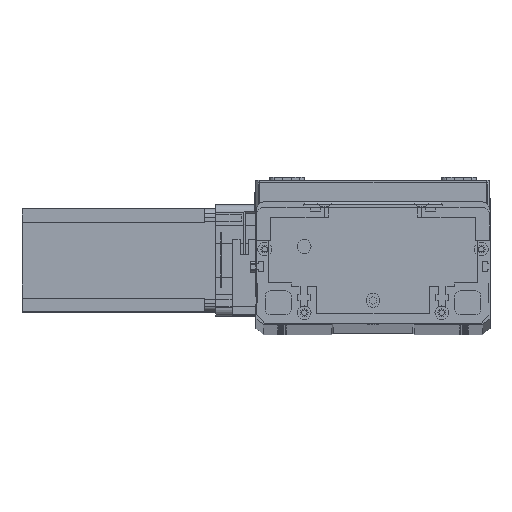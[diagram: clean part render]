
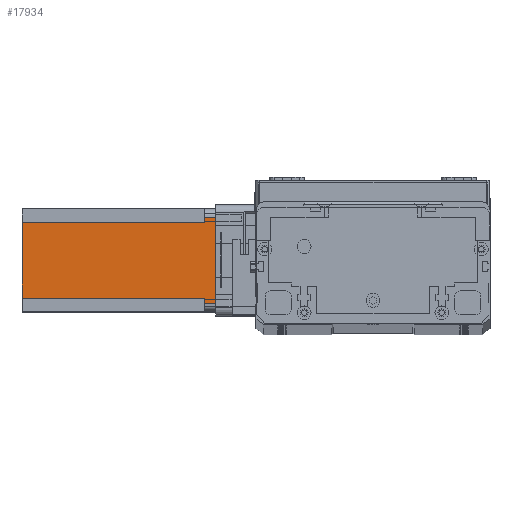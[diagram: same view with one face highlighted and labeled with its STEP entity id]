
A CAD part, top view. The second image highlights one B-rep face of the part: STEP entity #17934.
In plain terms, the highlighted planar face has unit normal (0, 0, 1) as drawn and (0, -1, 0) by its records, which use the part's own axes.
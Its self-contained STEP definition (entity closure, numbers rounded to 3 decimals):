
#14 = VERTEX_POINT ( 'NONE', #10759 ) ;
#540 = CARTESIAN_POINT ( 'NONE',  ( 0., 0., -112.5 ) ) ;
#685 = LINE ( 'NONE', #23722, #22745 ) ;
#937 = CARTESIAN_POINT ( 'NONE',  ( 0., 0., 0. ) ) ;
#1001 = PLANE ( 'NONE',  #6133 ) ;
#1212 = DIRECTION ( 'NONE',  ( 1., 0., 0. ) ) ;
#1981 = VECTOR ( 'NONE', #7027, 1000. ) ;
#2566 = VECTOR ( 'NONE', #11700, 1000. ) ;
#3206 = DIRECTION ( 'NONE',  ( 0., -1., 0. ) ) ;
#3386 = VERTEX_POINT ( 'NONE', #21681 ) ;
#3412 = CARTESIAN_POINT ( 'NONE',  ( 52., 0., -6.5 ) ) ;
#3940 = VERTEX_POINT ( 'NONE', #14972 ) ;
#4506 = VECTOR ( 'NONE', #10986, 1000. ) ;
#5635 = ORIENTED_EDGE ( 'NONE', *, *, #8963, .T. ) ;
#5998 = VERTEX_POINT ( 'NONE', #18128 ) ;
#6133 = AXIS2_PLACEMENT_3D ( 'NONE', #12074, #3206, #18588 ) ;
#6845 = VERTEX_POINT ( 'NONE', #21102 ) ;
#7027 = DIRECTION ( 'NONE',  ( 0., 0., 1. ) ) ;
#7896 = ORIENTED_EDGE ( 'NONE', *, *, #9510, .T. ) ;
#8359 = CARTESIAN_POINT ( 'NONE',  ( 5., 0., -6.5 ) ) ;
#8458 = ORIENTED_EDGE ( 'NONE', *, *, #20499, .F. ) ;
#8522 = LINE ( 'NONE', #540, #2566 ) ;
#8688 = EDGE_CURVE ( 'NONE', #21272, #21373, #685, .T. ) ;
#8723 = CARTESIAN_POINT ( 'NONE',  ( 8., 0., -112.5 ) ) ;
#8963 = EDGE_CURVE ( 'NONE', #6845, #21373, #17857, .T. ) ;
#9022 = EDGE_LOOP ( 'NONE', ( #14428, #7896, #8458, #5635, #21178, #20231, #20748, #11254 ) ) ;
#9172 = CARTESIAN_POINT ( 'NONE',  ( 55., 0., -6.5 ) ) ;
#9510 = EDGE_CURVE ( 'NONE', #15131, #3386, #13773, .T. ) ;
#9586 = CARTESIAN_POINT ( 'NONE',  ( 5., 0., -112.5 ) ) ;
#9738 = EDGE_CURVE ( 'NONE', #5998, #15131, #13431, .T. ) ;
#10759 = CARTESIAN_POINT ( 'NONE',  ( 52., 0., -112.5 ) ) ;
#10986 = DIRECTION ( 'NONE',  ( 0., 0., 1. ) ) ;
#11017 = CARTESIAN_POINT ( 'NONE',  ( 52., 0., -112.5 ) ) ;
#11254 = ORIENTED_EDGE ( 'NONE', *, *, #17421, .F. ) ;
#11449 = CARTESIAN_POINT ( 'NONE',  ( 55., 0., -112.5 ) ) ;
#11700 = DIRECTION ( 'NONE',  ( 1., 0., 0. ) ) ;
#12074 = CARTESIAN_POINT ( 'NONE',  ( 0., 0., -112.5 ) ) ;
#12458 = CARTESIAN_POINT ( 'NONE',  ( 8., 0., -6.5 ) ) ;
#13431 = LINE ( 'NONE', #3412, #24110 ) ;
#13773 = LINE ( 'NONE', #11449, #1981 ) ;
#14428 = ORIENTED_EDGE ( 'NONE', *, *, #9738, .T. ) ;
#14972 = CARTESIAN_POINT ( 'NONE',  ( 8., 0., -112.5 ) ) ;
#15003 = VECTOR ( 'NONE', #25939, 1000. ) ;
#15131 = VERTEX_POINT ( 'NONE', #9172 ) ;
#16192 = LINE ( 'NONE', #8723, #4506 ) ;
#16337 = DIRECTION ( 'NONE',  ( 1., 0., 0. ) ) ;
#16996 = EDGE_CURVE ( 'NONE', #3940, #14, #8522, .T. ) ;
#17378 = DIRECTION ( 'NONE',  ( -1., 0., 0. ) ) ;
#17421 = EDGE_CURVE ( 'NONE', #5998, #14, #22103, .T. ) ;
#17857 = LINE ( 'NONE', #9586, #27757 ) ;
#17934 = ADVANCED_FACE ( 'NONE', ( #20054 ), #1001, .T. ) ;
#18128 = CARTESIAN_POINT ( 'NONE',  ( 52., 0., -6.5 ) ) ;
#18588 = DIRECTION ( 'NONE',  ( 0., 0., -1. ) ) ;
#18877 = EDGE_CURVE ( 'NONE', #3940, #21272, #16192, .T. ) ;
#19149 = LINE ( 'NONE', #937, #24098 ) ;
#20054 = FACE_OUTER_BOUND ( 'NONE', #9022, .T. ) ;
#20231 = ORIENTED_EDGE ( 'NONE', *, *, #18877, .F. ) ;
#20499 = EDGE_CURVE ( 'NONE', #6845, #3386, #19149, .T. ) ;
#20748 = ORIENTED_EDGE ( 'NONE', *, *, #16996, .T. ) ;
#21102 = CARTESIAN_POINT ( 'NONE',  ( 5., 0., 0. ) ) ;
#21178 = ORIENTED_EDGE ( 'NONE', *, *, #8688, .F. ) ;
#21272 = VERTEX_POINT ( 'NONE', #12458 ) ;
#21373 = VERTEX_POINT ( 'NONE', #8359 ) ;
#21681 = CARTESIAN_POINT ( 'NONE',  ( 55., 0., 0. ) ) ;
#22103 = LINE ( 'NONE', #11017, #15003 ) ;
#22745 = VECTOR ( 'NONE', #17378, 1000. ) ;
#23722 = CARTESIAN_POINT ( 'NONE',  ( 8., 0., -6.5 ) ) ;
#24098 = VECTOR ( 'NONE', #16337, 1000. ) ;
#24110 = VECTOR ( 'NONE', #1212, 1000. ) ;
#24603 = DIRECTION ( 'NONE',  ( 0., 0., -1. ) ) ;
#25939 = DIRECTION ( 'NONE',  ( 0., 0., -1. ) ) ;
#27757 = VECTOR ( 'NONE', #24603, 1000. ) ;
